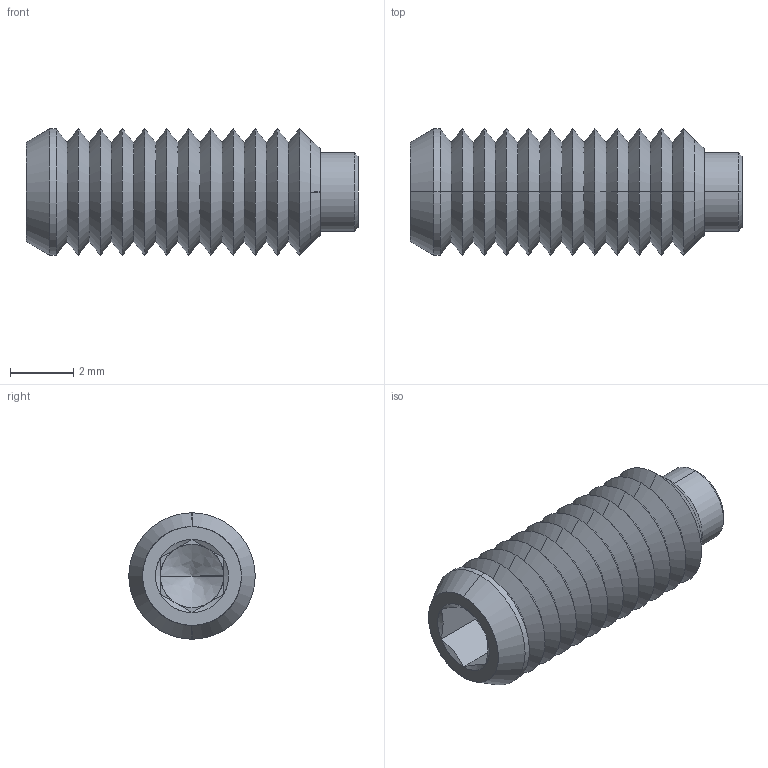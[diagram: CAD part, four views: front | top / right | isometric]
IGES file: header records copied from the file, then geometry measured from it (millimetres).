
Start section: SolidWorks IGES file using analytic representation for surfaces
Global section: file name: C:\Users\IanO\Desktop\P0120_v2_230406\P0120_v2_20230506_IGES\P0120.040-010.igs; native system: SolidWorks 2019; preprocessor: SolidWorks 2019; author: IanO; date: 230406.142227; units: millimetre
Bounding box: 10.5 x 4 x 4 mm (x, y, z)
Surface area: 224.8 mm2 (no closed solid volume)
Topology: 0 solids, 0 shells, 83 faces, 578 edges, 576 vertices
Faces by surface type: revolution 66, bspline 17
